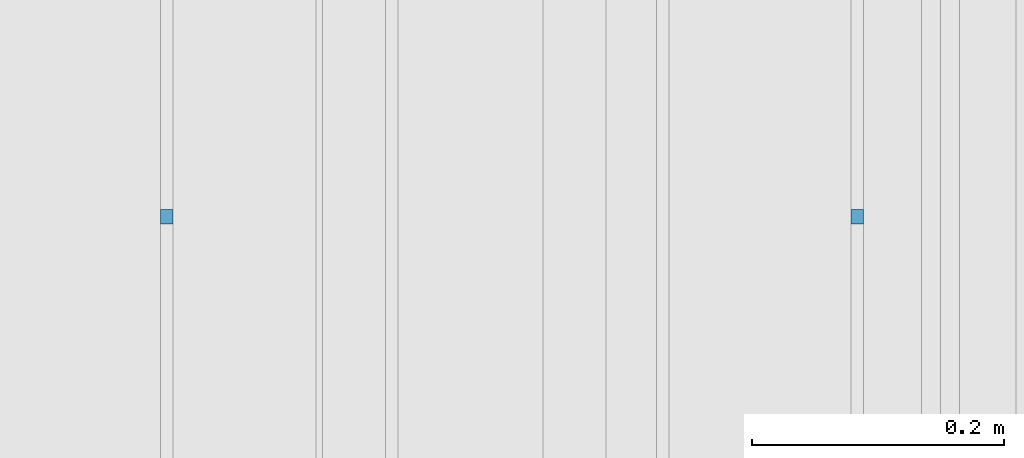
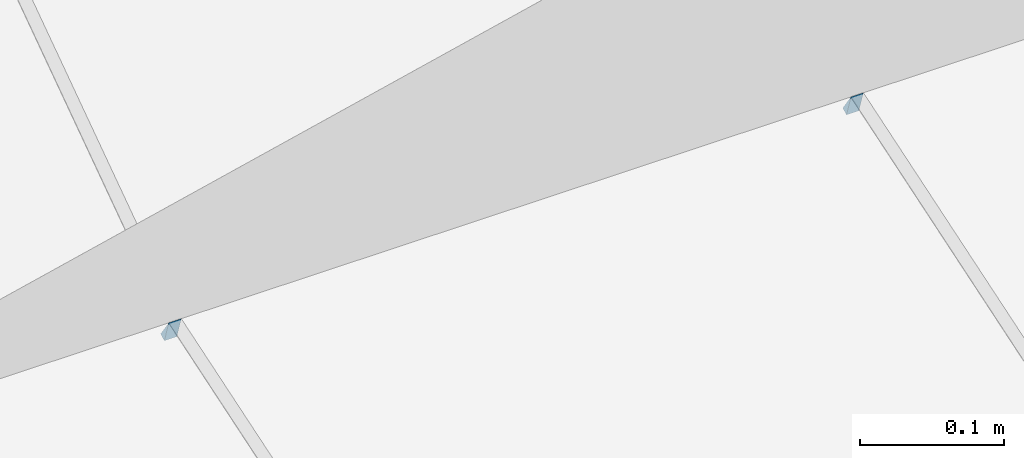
# One storey, part 344 of 583: 2 slabs.
"""IFC2X3 building model written with IfcOpenShell, lengths in metres."""

import ifcopenshell
import ifcopenshell.guid

model = None  # the IFC model being written
_history = None  # IfcOwnerHistory: only IFC2X3 demands one
_inside = {}  # id of a spatial element -> (the spatial element, [elements in it])
_under = {}  # id of a project, library or spatial element -> (it, [spatial elements below it])
_declared = {}  # id of a project -> (the project, [libraries it declares])
_typed = {}  # id of a type object -> (the type object, [elements of that type])
_made_of = {}  # id of a material, layer set ... -> (it, [elements and type objects made of it])


def new_model(schema):
    """Start an empty IFC model of exactly this schema.

    Asked for "IFC4X3", IfcOpenShell would pick the latest addendum, in which some entities
    have other attributes; the version numbers below select the first issue.
    IFC2X3 requires an IfcOwnerHistory on every rooted entity: one is made here for all.
    """
    global model, _history
    if schema == "IFC4X3":
        model = ifcopenshell.file(schema_version=(4, 3, 0, 0))
    else:
        model = ifcopenshell.file(schema=schema)
    _inside.clear()
    _under.clear()
    _declared.clear()
    _typed.clear()
    _made_of.clear()
    _history = None
    if model.schema == "IFC2X3":
        org = make("IfcOrganization", Name="unknown")
        user = make(
            "IfcPersonAndOrganization",
            ThePerson=make("IfcPerson", FamilyName="unknown"),
            TheOrganization=org,
        )
        app = make(
            "IfcApplication",
            ApplicationDeveloper=org,
            Version="unknown",
            ApplicationFullName="unknown",
            ApplicationIdentifier="unknown",
        )
        _history = make(
            "IfcOwnerHistory",
            OwningUser=user,
            OwningApplication=app,
            ChangeAction="ADDED",
            CreationDate=0,
        )
    return model


def make(cls, **values):
    """One entity of the class cls with the attributes given. An attribute that is None is left unset."""
    return model.create_entity(
        cls, **{name: value for name, value in values.items() if value is not None}
    )


def entity(cls, *values):
    """Any entity or typed value of the class cls, its attributes in the order of the schema. None: left unset."""
    e = model.create_entity(cls)
    for i, value in enumerate(values):
        if value is not None:
            e[i] = value
    return e


def rooted(cls, **values):
    """An entity with a GlobalId (a new one), such as an element, a storey or a relation."""
    return make(cls, GlobalId=ifcopenshell.guid.new(), OwnerHistory=_history, **values)


def si_unit(unit_type, name, prefix=None):
    """IfcSIUnit, for example si_unit("LENGTHUNIT", "METRE", prefix="MILLI")."""
    return make("IfcSIUnit", UnitType=unit_type, Prefix=prefix, Name=name)


def converted_unit(unit_type, name, factor, base, dimensions=None, offset=None):
    """IfcConversionBasedUnit, such as the inch: factor (a typed value) times the base unit."""
    return make(
        "IfcConversionBasedUnit"
        if offset is None
        else "IfcConversionBasedUnitWithOffset",
        ConversionOffset=offset,
        Dimensions=None
        if dimensions is None
        else entity("IfcDimensionalExponents", *dimensions),
        UnitType=unit_type,
        Name=name,
        ConversionFactor=make(
            "IfcMeasureWithUnit", ValueComponent=factor, UnitComponent=base
        ),
    )


def derived_unit(unit_type, elements):
    """IfcDerivedUnit: a product of units, each with its exponent."""
    return make(
        "IfcDerivedUnit",
        Elements=[
            make("IfcDerivedUnitElement", Unit=unit, Exponent=power)
            for unit, power in elements
        ],
        UnitType=unit_type,
    )


def money_unit(currency):
    """IfcMonetaryUnit."""
    return make("IfcMonetaryUnit", Currency=currency)


def assignment(units):
    """IfcUnitAssignment: the units of a project."""
    return None if units is None else make("IfcUnitAssignment", Units=units)


def point(xyz):
    """IfcCartesianPoint."""
    return None if xyz is None else make("IfcCartesianPoint", Coordinates=xyz)


def direction(xyz):
    """IfcDirection."""
    return None if xyz is None else make("IfcDirection", DirectionRatios=xyz)


def frame(location, z_axis=None, x_axis=None):
    """IfcAxis2Placement3D, a coordinate frame: its origin and axes. An axis left out is left unset."""
    return make(
        "IfcAxis2Placement3D",
        Location=point(location),
        Axis=direction(z_axis),
        RefDirection=direction(x_axis),
    )


def origin_with_axes():
    """The frame at (0, 0, 0) with the z axis (0, 0, 1) and the x axis (1, 0, 0) written out."""
    return frame((0.0, 0.0, 0.0), z_axis=(0.0, 0.0, 1.0), x_axis=(1.0, 0.0, 0.0))


def place(relative_to, where):
    """IfcLocalPlacement: puts the frame where relative to a parent placement (None: the world)."""
    return make(
        "IfcLocalPlacement", PlacementRelTo=relative_to, RelativePlacement=where
    )


def context(
    kind, dimensions, precision=None, world=None, true_north=None, identifier=None
):
    """IfcGeometricRepresentationContext, for example the 3D "Model" context."""
    return make(
        "IfcGeometricRepresentationContext",
        ContextIdentifier=identifier,
        ContextType=kind,
        CoordinateSpaceDimension=dimensions,
        Precision=precision,
        WorldCoordinateSystem=world,
        TrueNorth=true_north,
    )


def subcontext(parent, identifier, kind, view, scale=None):
    """IfcGeometricRepresentationSubContext, for example "Body" below "Model"."""
    return make(
        "IfcGeometricRepresentationSubContext",
        ContextIdentifier=identifier,
        ContextType=kind,
        ParentContext=parent,
        TargetScale=scale,
        TargetView=view,
    )


def project(units=None, contexts=None):
    """IfcProject with its units and contexts."""
    return rooted(
        "IfcProject",
        Name="project",
        RepresentationContexts=contexts,
        UnitsInContext=assignment(units),
    )


def spatial(cls, under=None, at=None, **own):
    """A site, building, storey or space (cls), placed at a placement, below another one or the project."""
    s = rooted(cls, ObjectPlacement=at, **own)
    if under is not None:
        _under.setdefault(under.id(), (under, []))[1].append(s)
    return s


def faces_of(points, faces, orient=None, outer=None):
    """IfcFace entities. A face is a list of loops; a loop is a list of indices into points, from 0.

    orient and outer hold one flag for each loop. By default every Orientation is true, the
    first loop of a face is its IfcFaceOuterBound and the others are IfcFaceBound.
    """
    made = []
    for i, loops in enumerate(faces):
        bounds = []
        for j, loop in enumerate(loops):
            is_outer = j == 0 if outer is None else outer[i][j]
            bounds.append(
                make(
                    "IfcFaceOuterBound" if is_outer else "IfcFaceBound",
                    Bound=make("IfcPolyLoop", Polygon=[points[k] for k in loop]),
                    Orientation=True if orient is None else orient[i][j],
                )
            )
        made.append(make("IfcFace", Bounds=bounds))
    return made


def faceted_brep(points, faces, orient=None, outer=None, voids=None):
    """IfcFacetedBrep: a solid bounded by flat faces; with voids (closed shells), ...WithVoids."""
    shared = [point(p) for p in points]
    hull = make("IfcClosedShell", CfsFaces=faces_of(shared, faces, orient, outer))
    if voids is None:
        return make("IfcFacetedBrep", Outer=hull)
    return make(
        "IfcFacetedBrepWithVoids",
        Outer=hull,
        Voids=[
            make(cls, CfsFaces=faces_of(shared, fs, o, b)) for cls, fs, o, b in voids
        ],
    )


def shape(context_of_items, identifier, shape_type, items):
    """IfcShapeRepresentation: the items that make up one representation, for example the "Body"."""
    return make(
        "IfcShapeRepresentation",
        ContextOfItems=context_of_items,
        RepresentationIdentifier=identifier,
        RepresentationType=shape_type,
        Items=items,
    )


def material(Name=None, Category=None):
    """IfcMaterial."""
    return make("IfcMaterial", Name=Name, Category=Category)


def made_of(thing, what):
    """Note that an element or type object is made of a material, layer set ...; save() writes the relation."""
    if what is not None:
        _made_of.setdefault(what.id(), (what, []))[1].append(thing)
    return thing


def type_object(cls, material=None, **own):
    """A type object (cls), such as IfcWallType, which elements share."""
    return made_of(rooted(cls, **own), material)


def element(
    cls,
    number,
    at=None,
    inside=None,
    cuts=None,
    type_object=None,
    material=None,
    context=None,
    identifier="Body",
    shape_type=None,
    held_by="IfcProductDefinitionShape",
    body=None,
    shapes=None,
    **own,
):
    """One element of the class cls, such as IfcWall. Its Tag is "e" and its number.

    at: its placement. inside: the storey or other place that contains it. cuts: it is an
    opening in that element (IfcRelVoidsElement). A single representation is given by context,
    identifier, shape_type and body (its items); several are given by shapes. held_by: the class
    of the entity that holds the representations. save() writes the other relations.
    """
    e = rooted(cls, Tag="e%d" % number, ObjectPlacement=at, **own)
    if body is not None:
        shapes = [shape(context, identifier, shape_type, body)]
    if shapes is not None:
        e.Representation = make(held_by, Representations=shapes)
    if inside is not None:
        _inside.setdefault(inside.id(), (inside, []))[1].append(e)
    if cuts is not None:
        rooted(
            "IfcRelVoidsElement", RelatingBuildingElement=cuts, RelatedOpeningElement=e
        )
    if type_object is not None:
        _typed.setdefault(type_object.id(), (type_object, []))[1].append(e)
    return made_of(e, material)


def aggregate(whole, parts):
    """IfcRelAggregates: a whole, such as a stair, and the parts it consists of."""
    return rooted("IfcRelAggregates", RelatingObject=whole, RelatedObjects=parts)


def save(model, path):
    """Write the relations noted so far, then the file.

    IfcRelAggregates (storeys below a building ...), IfcRelContainedInSpatialStructure (elements
    in a storey), IfcRelDefinesByType, IfcRelAssociatesMaterial and IfcRelDeclares: one each for
    every whole, place, type object, material and project.
    """
    for whole, parts in _under.values():
        aggregate(whole, parts)
    for where, things in _inside.values():
        rooted(
            "IfcRelContainedInSpatialStructure",
            RelatedElements=things,
            RelatingStructure=where,
        )
    for kind, things in _typed.values():
        rooted("IfcRelDefinesByType", RelatedObjects=things, RelatingType=kind)
    for what, things in _made_of.values():
        rooted("IfcRelAssociatesMaterial", RelatedObjects=things, RelatingMaterial=what)
    for by, libraries in _declared.values():
        rooted("IfcRelDeclares", RelatingContext=by, RelatedDefinitions=libraries)
    model.write(path)


model = new_model("IFC2X3")

# Units and contexts
model_context = context("Model", 3, precision=1e-05, world=origin_with_axes(), true_north=direction((0.0, 1.0)))
body_context = subcontext(model_context, "Body", "Model", "MODEL_VIEW", scale=1.0)
ifc_project = project(units=[si_unit("LENGTHUNIT", "METRE"), si_unit("AREAUNIT", "SQUARE_METRE"), si_unit("VOLUMEUNIT", "CUBIC_METRE"), si_unit("ABSORBEDDOSEUNIT", "GRAY"), si_unit("AMOUNTOFSUBSTANCEUNIT", "MOLE"), si_unit("DOSEEQUIVALENTUNIT", "SIEVERT"), si_unit("ELECTRICCAPACITANCEUNIT", "FARAD"), si_unit("ELECTRICCHARGEUNIT", "COULOMB"), si_unit("ELECTRICCONDUCTANCEUNIT", "SIEMENS"), si_unit("ELECTRICCURRENTUNIT", "AMPERE"), si_unit("ELECTRICRESISTANCEUNIT", "OHM"), si_unit("ELECTRICVOLTAGEUNIT", "VOLT"), si_unit("ENERGYUNIT", "JOULE"), si_unit("FORCEUNIT", "NEWTON"), si_unit("FREQUENCYUNIT", "HERTZ"), si_unit("ILLUMINANCEUNIT", "LUX"), si_unit("INDUCTANCEUNIT", "HENRY"), si_unit("LUMINOUSFLUXUNIT", "LUMEN"), si_unit("LUMINOUSINTENSITYUNIT", "CANDELA"), si_unit("MAGNETICFLUXDENSITYUNIT", "TESLA"), si_unit("MAGNETICFLUXUNIT", "WEBER"), si_unit("MASSUNIT", "GRAM"), converted_unit("PLANEANGLEUNIT", "degree", entity("IfcReal", 0.0174532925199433), si_unit("PLANEANGLEUNIT", "RADIAN"), dimensions=[0, 0, 0, 0, 0, 0, 0]), si_unit("POWERUNIT", "WATT"), si_unit("PRESSUREUNIT", "PASCAL"), si_unit("RADIOACTIVITYUNIT", "BECQUEREL"), si_unit("SOLIDANGLEUNIT", "STERADIAN"), si_unit("THERMODYNAMICTEMPERATUREUNIT", "KELVIN"), si_unit("TIMEUNIT", "SECOND"), derived_unit("ACCELERATIONUNIT", [(si_unit("LENGTHUNIT", "METRE"), 1), (si_unit("TIMEUNIT", "SECOND"), -2)]), derived_unit("ANGULARVELOCITYUNIT", [(converted_unit("PLANEANGLEUNIT", "degree", entity("IfcReal", 0.0174532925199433), si_unit("PLANEANGLEUNIT", "RADIAN"), dimensions=[0, 0, 0, 0, 0, 0, 0]), 1), (si_unit("TIMEUNIT", "SECOND"), -1)]), derived_unit("CURVATUREUNIT", [(converted_unit("PLANEANGLEUNIT", "degree", entity("IfcReal", 0.0174532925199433), si_unit("PLANEANGLEUNIT", "RADIAN"), dimensions=[0, 0, 0, 0, 0, 0, 0]), 1), (si_unit("LENGTHUNIT", "METRE"), -1)]), derived_unit("DYNAMICVISCOSITYUNIT", [(si_unit("PRESSUREUNIT", "PASCAL"), 1), (si_unit("TIMEUNIT", "SECOND"), 1)]), derived_unit("HEATFLUXDENSITYUNIT", [(si_unit("POWERUNIT", "WATT"), 1), (si_unit("LENGTHUNIT", "METRE"), -2)]), derived_unit("HEATINGVALUEUNIT", [(si_unit("ENERGYUNIT", "JOULE"), 1), (si_unit("MASSUNIT", "GRAM"), -1)]), derived_unit("INTEGERCOUNTRATEUNIT", [(si_unit("TIMEUNIT", "SECOND"), -1)]), derived_unit("IONCONCENTRATIONUNIT", [(si_unit("MASSUNIT", "GRAM"), 1), (si_unit("VOLUMEUNIT", "CUBIC_METRE"), -1)]), derived_unit("ISOTHERMALMOISTURECAPACITYUNIT", [(si_unit("VOLUMEUNIT", "CUBIC_METRE"), 1), (si_unit("MASSUNIT", "GRAM"), -1)]), derived_unit("KINEMATICVISCOSITYUNIT", [(si_unit("AREAUNIT", "SQUARE_METRE"), 1), (si_unit("TIMEUNIT", "SECOND"), -1)]), derived_unit("LINEARFORCEUNIT", [(si_unit("FORCEUNIT", "NEWTON"), 1), (si_unit("LENGTHUNIT", "METRE"), -1)]), derived_unit("LINEARMOMENTUNIT", [(si_unit("FORCEUNIT", "NEWTON"), 1), (si_unit("LENGTHUNIT", "METRE"), -1)]), derived_unit("LINEARSTIFFNESSUNIT", [(si_unit("FORCEUNIT", "NEWTON"), 1), (si_unit("LENGTHUNIT", "METRE"), -1)]), derived_unit("LINEARVELOCITYUNIT", [(si_unit("LENGTHUNIT", "METRE"), 1), (si_unit("TIMEUNIT", "SECOND"), -1)]), derived_unit("LUMINOUSINTENSITYDISTRIBUTIONUNIT", [(si_unit("LUMINOUSINTENSITYUNIT", "CANDELA"), 1), (si_unit("LUMINOUSFLUXUNIT", "LUMEN"), -1)]), derived_unit("MASSDENSITYUNIT", [(si_unit("MASSUNIT", "GRAM"), 1), (si_unit("VOLUMEUNIT", "CUBIC_METRE"), -1)]), derived_unit("MASSFLOWRATEUNIT", [(si_unit("MASSUNIT", "GRAM"), 1), (si_unit("TIMEUNIT", "SECOND"), -1)]), derived_unit("MASSPERLENGTHUNIT", [(si_unit("MASSUNIT", "GRAM"), 1), (si_unit("LENGTHUNIT", "METRE"), -1)]), derived_unit("MODULUSOFELASTICITYUNIT", [(si_unit("FORCEUNIT", "NEWTON"), 1), (si_unit("AREAUNIT", "SQUARE_METRE"), -1)]), derived_unit("MODULUSOFLINEARSUBGRADEREACTIONUNIT", [(si_unit("FORCEUNIT", "NEWTON"), 1), (si_unit("LENGTHUNIT", "METRE"), -2)]), derived_unit("MODULUSOFROTATIONALSUBGRADEREACTIONUNIT", [(si_unit("FORCEUNIT", "NEWTON"), 1), (si_unit("LENGTHUNIT", "METRE"), 1)]), derived_unit("MODULUSOFSUBGRADEREACTIONUNIT", [(si_unit("FORCEUNIT", "NEWTON"), 1), (si_unit("VOLUMEUNIT", "CUBIC_METRE"), -1)]), derived_unit("MOISTUREDIFFUSIVITYUNIT", [(si_unit("VOLUMEUNIT", "CUBIC_METRE"), 1), (si_unit("TIMEUNIT", "SECOND"), -1)]), derived_unit("MOLECULARWEIGHTUNIT", [(si_unit("MASSUNIT", "GRAM"), 1), (si_unit("AMOUNTOFSUBSTANCEUNIT", "MOLE"), -1)]), derived_unit("PLANARFORCEUNIT", [(si_unit("FORCEUNIT", "NEWTON"), 1), (si_unit("LENGTHUNIT", "METRE"), -2)]), derived_unit("ROTATIONALFREQUENCYUNIT", [(si_unit("TIMEUNIT", "SECOND"), -1)]), derived_unit("ROTATIONALMASSUNIT", [(si_unit("MASSUNIT", "GRAM"), 1), (si_unit("LENGTHUNIT", "METRE"), 2)]), derived_unit("ROTATIONALSTIFFNESSUNIT", [(si_unit("FORCEUNIT", "NEWTON"), 1), (si_unit("LENGTHUNIT", "METRE"), 1), (converted_unit("PLANEANGLEUNIT", "degree", entity("IfcReal", 0.0174532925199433), si_unit("PLANEANGLEUNIT", "RADIAN"), dimensions=[0, 0, 0, 0, 0, 0, 0]), -1)]), derived_unit("SECTIONAREAINTEGRALUNIT", [(si_unit("LENGTHUNIT", "METRE"), 5)]), derived_unit("SECTIONMODULUSUNIT", [(si_unit("LENGTHUNIT", "METRE"), 3)]), derived_unit("SHEARMODULUSUNIT", [(si_unit("FORCEUNIT", "NEWTON"), 1), (si_unit("AREAUNIT", "SQUARE_METRE"), -1)]), derived_unit("SOUNDPOWERUNIT", [(si_unit("ENERGYUNIT", "JOULE"), 1), (si_unit("TIMEUNIT", "SECOND"), -1)]), derived_unit("SPECIFICHEATCAPACITYUNIT", [(si_unit("FORCEUNIT", "NEWTON"), 1), (si_unit("MASSUNIT", "GRAM"), -1), (si_unit("THERMODYNAMICTEMPERATUREUNIT", "KELVIN"), -1)]), derived_unit("TEMPERATUREGRADIENTUNIT", [(si_unit("THERMODYNAMICTEMPERATUREUNIT", "KELVIN"), 1), (si_unit("LENGTHUNIT", "METRE"), -1)]), derived_unit("THERMALADMITTANCEUNIT", [(si_unit("POWERUNIT", "WATT"), 1), (si_unit("AREAUNIT", "SQUARE_METRE"), -1), (si_unit("THERMODYNAMICTEMPERATUREUNIT", "KELVIN"), -1)]), derived_unit("THERMALCONDUCTANCEUNIT", [(si_unit("POWERUNIT", "WATT"), 1), (si_unit("LENGTHUNIT", "METRE"), -1), (si_unit("THERMODYNAMICTEMPERATUREUNIT", "KELVIN"), -1)]), derived_unit("THERMALEXPANSIONCOEFFICIENTUNIT", [(si_unit("THERMODYNAMICTEMPERATUREUNIT", "KELVIN"), -1)]), derived_unit("THERMALRESISTANCEUNIT", [(si_unit("AREAUNIT", "SQUARE_METRE"), 1), (si_unit("POWERUNIT", "WATT"), -1)]), derived_unit("THERMALTRANSMITTANCEUNIT", [(si_unit("POWERUNIT", "WATT"), 1), (si_unit("AREAUNIT", "SQUARE_METRE"), -1), (si_unit("THERMODYNAMICTEMPERATUREUNIT", "KELVIN"), -1)]), derived_unit("TORQUEUNIT", [(si_unit("FORCEUNIT", "NEWTON"), 1), (si_unit("LENGTHUNIT", "METRE"), 1)]), derived_unit("VAPORPERMEABILITYUNIT", [(si_unit("MASSUNIT", "GRAM"), 1), (si_unit("TIMEUNIT", "SECOND"), -1)]), derived_unit("VOLUMETRICFLOWRATEUNIT", [(si_unit("VOLUMEUNIT", "CUBIC_METRE"), 1), (si_unit("TIMEUNIT", "SECOND"), -1)]), derived_unit("WARPINGCONSTANTUNIT", [(si_unit("LENGTHUNIT", "METRE"), 6)]), derived_unit("WARPINGMOMENTUNIT", [(si_unit("FORCEUNIT", "NEWTON"), 1), (si_unit("LENGTHUNIT", "METRE"), 2)]), money_unit("GBP")], contexts=[model_context])

# Site, building, storey
site_placement = place(None, origin_with_axes())
site = spatial("IfcSite", under=ifc_project, at=site_placement, Name="Site", CompositionType="ELEMENT")
building_placement = place(site_placement, origin_with_axes())
building = spatial("IfcBuilding", under=site, at=building_placement, Name="Building01", CompositionType="ELEMENT")
storey_placement = place(building_placement, frame((0.0, 0.0, 20.78), z_axis=(0.0, 0.0, 1.0), x_axis=(1.0, 0.0, 0.0)))
storey = spatial("IfcBuildingStorey", under=building, at=storey_placement, Name="RL", CompositionType="ELEMENT", Elevation=20.78)

# Slabs
ifc_material = material(Name="A_BSUK_Roofs")
slab_type = type_object("IfcSlabType", Name="A-FloorsSlabs A_BSUK_Slabs", PredefinedType="FLOOR")
slab_1_placement = place(storey_placement, frame((3.623975, 18.791933, -19.462123), z_axis=(0.0, 1.0, 0.0), x_axis=(-1.0, 0.0, 0.0)))
element("IfcSlab", 1, at=slab_1_placement, inside=storey, type_object=slab_type, material=ifc_material, Name="A-FloorsSlabs A_BSUK_Slabs", ObjectType="A-FloorsSlabs A_BSUK_Slabs", context=body_context, shape_type="Brep", body=[
    faceted_brep([(0.0, 0.0, 0.0), (-0.01, 0.0, 0.0), (-0.01, -0.002638, -0.005291), (0.0, -0.002638, -0.005291), (-0.01, 0.016383, -0.011472), (0.0, 0.016383, -0.011472)], [[[0, 1, 2, 3]], [[3, 2, 4, 5]], [[5, 4, 1, 0]], [[1, 4, 2]], [[3, 5, 0]]]),
])
slab_2_placement = place(storey_placement, frame((3.086475, 18.791933, -19.462123), z_axis=(0.0, 1.0, 0.0), x_axis=(-1.0, 0.0, 0.0)))
element("IfcSlab", 2, at=slab_2_placement, inside=storey, type_object=slab_type, material=ifc_material, Name="A-FloorsSlabs A_BSUK_Slabs", ObjectType="A-FloorsSlabs A_BSUK_Slabs", context=body_context, shape_type="Brep", body=[
    faceted_brep([(0.0, -0.002638, -0.005291), (0.01, -0.002638, -0.005291), (0.01, 0.0, 0.0), (0.0, 0.0, 0.0), (0.0, 0.016383, -0.011472), (0.01, 0.016383, -0.011472)], [[[0, 1, 2, 3]], [[4, 5, 1, 0]], [[3, 2, 5, 4]], [[1, 5, 2]], [[3, 4, 0]]]),
])

save(model, "model.ifc")
